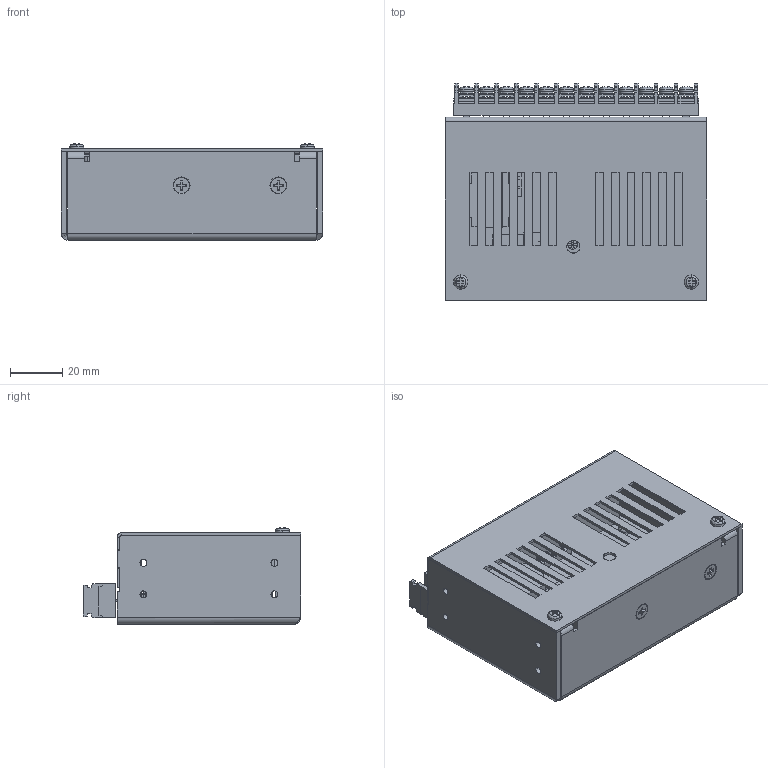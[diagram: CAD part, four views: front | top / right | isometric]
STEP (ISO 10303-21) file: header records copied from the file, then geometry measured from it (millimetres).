
FILE_DESCRIPTION (( 'STEP AP214' ), '1' );
FILE_NAME ('D6060_Driver_STEP.STEP', '2012-03-19T06:06:32', ( '' ), ( '' ), 'SwSTEP 2.0', 'SolidWorks 2012', '' );
FILE_SCHEMA (( 'AUTOMOTIVE_DESIGN' ));
Length unit declared in the file: millimetre
Products named in the file (1): D6060_Driver_STEP
Bounding box: 100 x 82.9 x 36.96 mm (x, y, z)
Surface area: 71714 mm2 (no closed solid volume)
Topology: 0 solids, 100 shells, 1451 faces, 5171 edges, 3737 vertices
Faces by surface type: plane 828, cylinder 411, bspline 84, torus 76, cone 52
Entity records: 73737 total; most frequent: CARTESIAN_POINT 14598, DIRECTION 8625, ORIENTED_EDGE 8413, EDGE_CURVE 5171, VERTEX_POINT 3737, LINE 3281, VECTOR 3281, AXIS2_PLACEMENT_3D 2672
